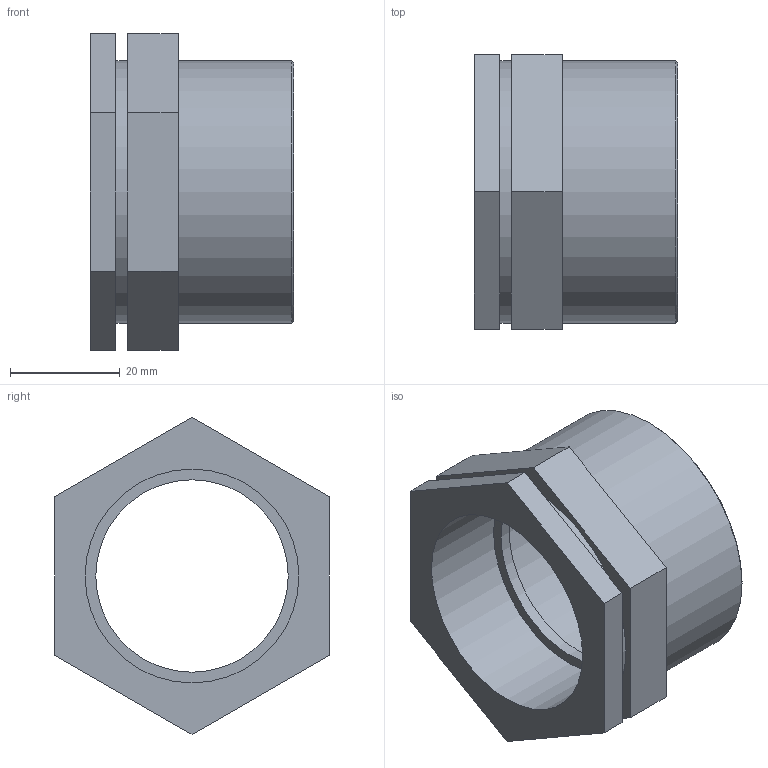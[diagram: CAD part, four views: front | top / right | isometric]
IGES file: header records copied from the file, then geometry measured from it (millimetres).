
Global section: file name: 050207015013_0502070150130A.ipt; native system: Autodesk Inventor 2015; preprocessor: unknown; author: KIM; date: 20170618.093135; units: millimetre
Bounding box: 37 x 50 x 57.73 mm (x, y, z)
Volume: 22299.8 mm3; surface area: 15053 mm2
Topology: 1 solids, 1 shells, 28 faces, 66 edges, 46 vertices
Faces by surface type: plane 20, revolution 4, cylinder 3, cone 1
Full cylindrical faces by diameter (mm): 41.679 x1, 47.803 x2
